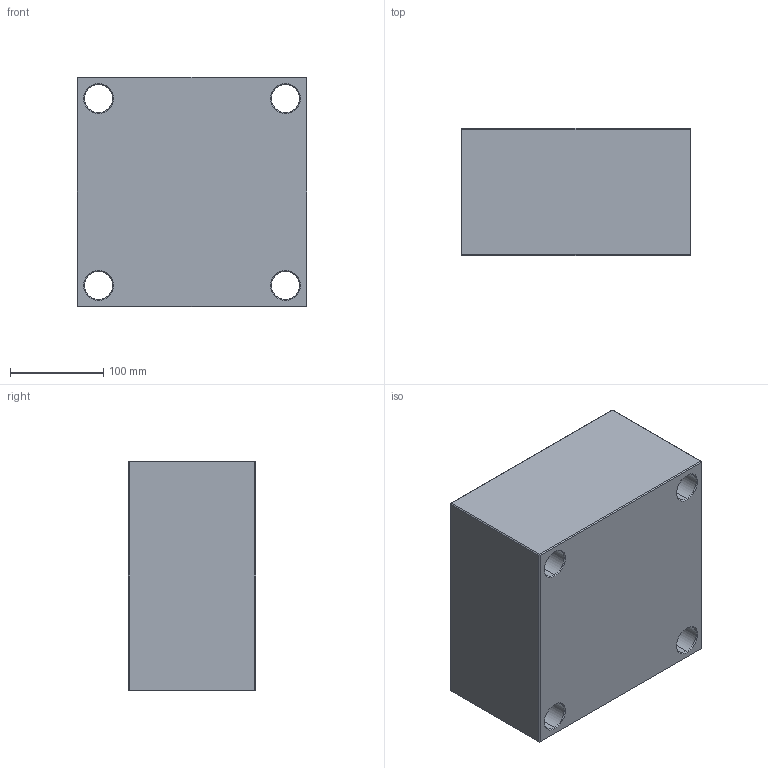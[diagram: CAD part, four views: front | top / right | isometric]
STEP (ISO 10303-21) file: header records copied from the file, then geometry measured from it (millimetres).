
FILE_DESCRIPTION (( 'STEP AP214' ), '1' );
FILE_NAME ('PC-246x246x136.STEP', '2020-04-21T16:10:29', ( 'August' ), ( '' ), 'SwSTEP 2.0', 'SolidWorks 2018', '' );
FILE_SCHEMA (( 'AUTOMOTIVE_DESIGN' ));
Length unit declared in the file: millimetre
Products named in the file (1): PC-246x246x136
Bounding box: 246 x 136 x 246 mm (x, y, z)
Volume: 7825196.7 mm3; surface area: 302533 mm2
Topology: 1 solids, 1 shells, 82 faces, 168 edges, 96 vertices
Faces by surface type: plane 34, cone 24, cylinder 24
Entity records: 2170 total; most frequent: DIRECTION 406, CARTESIAN_POINT 347, ORIENTED_EDGE 336, EDGE_CURVE 168, AXIS2_PLACEMENT_3D 155, EDGE_LOOP 98, LINE 96, VECTOR 96
